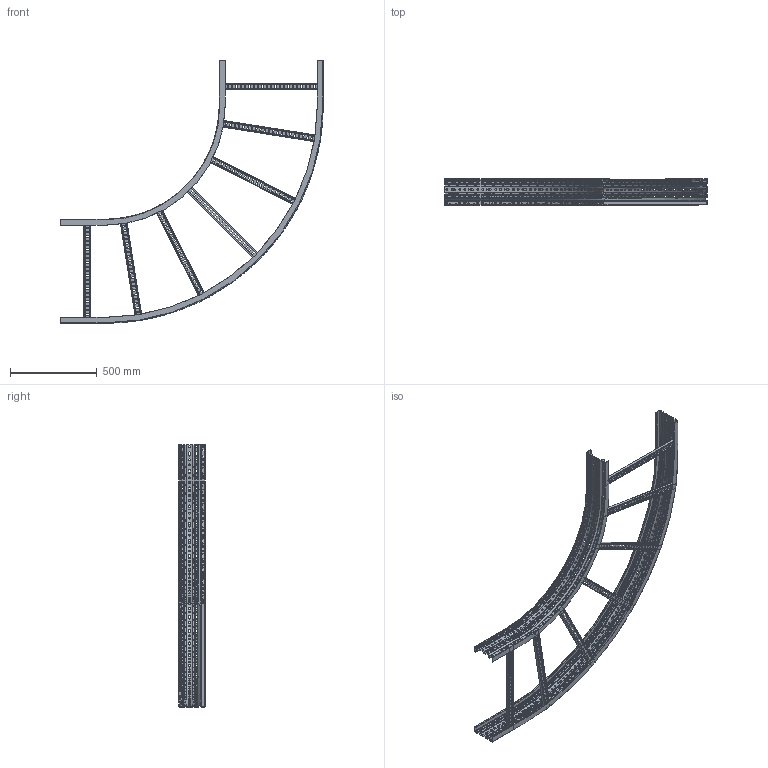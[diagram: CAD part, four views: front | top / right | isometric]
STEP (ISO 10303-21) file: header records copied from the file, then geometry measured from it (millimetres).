
FILE_DESCRIPTION (( 'STEP AP203' ), '1' );
FILE_NAME ('ULD 656 (R660).STEP', '2015-04-03T11:55:18', ( '' ), ( '' ), 'SwSTEP 2.0', 'SolidWorks 2014', '' );
FILE_SCHEMA (( 'CONFIG_CONTROL_DESIGN' ));
Products named in the file (4): ULD 656 (R660); 呧翲歑鍙 碴麔謥臇鴇 H=150 R660; Traversino 39x19x1.5_1_600:(1,5); 呧翲歑鍙  縺賾緱鴇 90 H=150 R660_600
Assembly tree (9 placements, depth 2):
  ULD 656 (R660)
    呧翲歑鍙 碴麔謥臇鴇 H=150 R660
    Traversino 39x19x1.5_1_600:(1,5)  x7
    呧翲歑鍙  縺賾緱鴇 90 H=150 R660_600
Bounding box: 1518.7 x 150.9 x 1518.7 mm (x, y, z)
Volume: 2595673.3 mm3; surface area: 2889204 mm2
Topology: 9 solids, 9 shells, 6359 faces, 18203 edges, 11896 vertices
Faces by surface type: cylinder 3111, plane 2889, bspline 279, torus 72, cone 8
Entity records: 209710 total; most frequent: CARTESIAN_POINT 93309, ORIENTED_EDGE 26278, DIRECTION 20752, EDGE_CURVE 13139, VERTEX_POINT 8680, AXIS2_PLACEMENT_3D 7419, EDGE_LOOP 5931, LINE 5914
